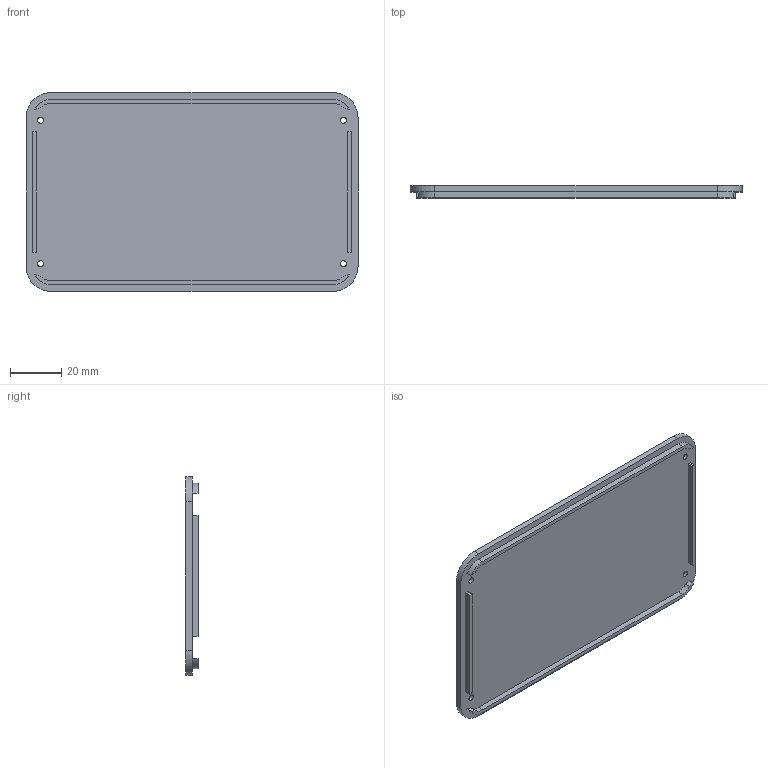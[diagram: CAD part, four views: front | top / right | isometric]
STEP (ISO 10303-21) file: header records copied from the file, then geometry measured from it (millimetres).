
FILE_DESCRIPTION(('Open CASCADE Model'),'2;1');
FILE_NAME('Open CASCADE Shape Model','2026-10-20T14:23:18',('Author'),( 'Open CASCADE'),'Open CASCADE STEP processor 7.8','Open CASCADE 7.8' ,'Unknown');
FILE_SCHEMA(('AUTOMOTIVE_DESIGN { 1 0 10303 214 1 1 1 1 }'));
Length unit declared in the file: millimetre
Products named in the file (1): Open CASCADE STEP translator 7.8 1
Bounding box: 129.4 x 4.7 x 77.4 mm (x, y, z)
Volume: 24909.7 mm3; surface area: 22485.6 mm2
Topology: 1 solids, 1 shells, 58 faces, 144 edges, 96 vertices
Faces by surface type: plane 30, cylinder 28
Full cylindrical faces by diameter (mm): 2.4 x4, 5 x4
Entity records: 3600 total; most frequent: CARTESIAN_POINT 683, DIRECTION 540, ORIENTED_EDGE 288, PCURVE 288, DEFINITIONAL_REPRESENTATION 288, LINE 260, VECTOR 260, EDGE_CURVE 144
